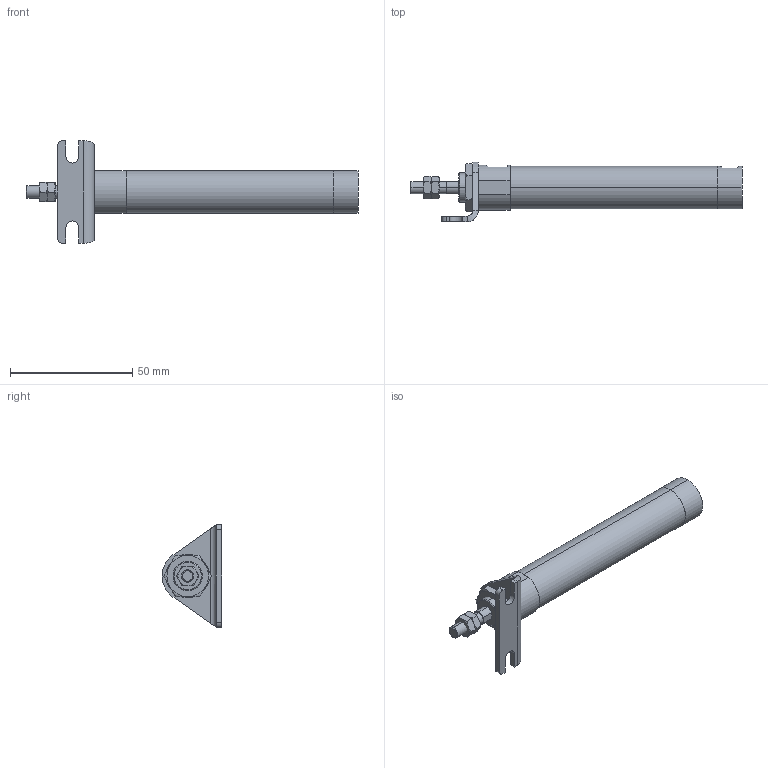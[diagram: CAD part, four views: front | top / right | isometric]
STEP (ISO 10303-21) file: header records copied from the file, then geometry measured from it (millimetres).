
FILE_DESCRIPTION (( 'STEP AP203' ), '1' );
FILE_NAME ('ZGU2-16-60-L.STEP', '2016-03-31T01:01:46', ( '' ), ( '' ), 'SwSTEP 2.0', 'SolidWorks 2014', '' );
FILE_SCHEMA (( 'CONFIG_CONTROL_DESIGN' ));
Length unit declared in the file: millimetre
Products named in the file (5): ZGU2-16-60; Z-16-L; ZGU2-16-60-L
Assembly tree (5 placements, depth 2):
  ZGU2-16-60-L
    ZGU2-16-60
    (unnamed)  x2
    (unnamed)
    Z-16-L
Bounding box: 136 x 24.46 x 42 mm (x, y, z)
Volume: 29704.6 mm3; surface area: 10432.6 mm2
Topology: 5 solids, 5 shells, 134 faces, 299 edges, 180 vertices
Faces by surface type: plane 56, torus 36, cylinder 32, cone 8, bspline 2
Entity records: 3968 total; most frequent: CARTESIAN_POINT 997, DIRECTION 511, ORIENTED_EDGE 494, EDGE_CURVE 247, AXIS2_PLACEMENT_3D 202, VERTEX_POINT 152, EDGE_LOOP 127, ADVANCED_FACE 112
